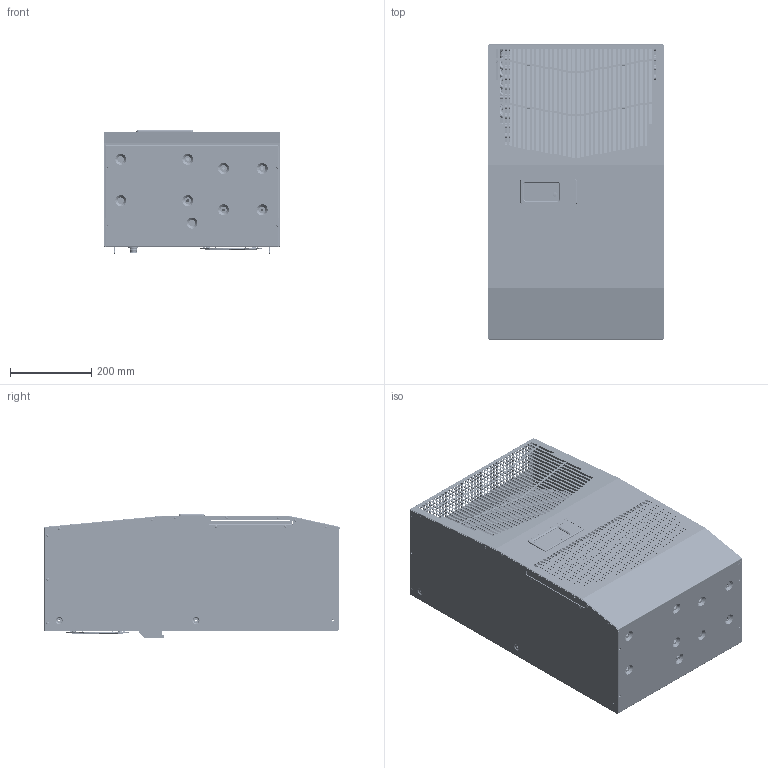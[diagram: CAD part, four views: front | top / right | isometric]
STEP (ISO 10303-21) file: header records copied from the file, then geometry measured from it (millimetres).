
FILE_DESCRIPTION (( 'STEP AP203' ), '1' );
FILE_NAME ('g280416g050.STEP', '2013-04-17T20:10:12', ( 'User' ), ( 'Pentair Inc' ), 'SwSTEP 2.0', 'SolidWorks 2010', '' );
FILE_SCHEMA (( 'CONFIG_CONTROL_DESIGN' ));
Products named in the file (32): g280416g050; 89078942; 89101704; 10-1061-16; 10-1002-455; 38-2023-12; 28-6218-00; 89101703_as installed; 89078943; 11-7810-88_as installed; 89101701_as installed; 89101702_as installed; 89075090; 89100366; 89100367; 89100368; 89100369; 89098953; 89100370; 10-1097-03_AS USED; 10-1015-97_Internal Tooth LW Type A-0.19; 89096883; 10-1131-08; 10-1002-479; 89075089; 10-1002-478; 10-1014-34; 87925524_as installed; 89078951; 89101531; 12-1012-00; 89074296
Assembly tree (76 placements, depth 3):
  g280416g050
    89078943
    10-1014-34  x17
    28-6218-00
    10-1015-97_Internal Tooth LW Type A-0.19  x3
    12-1012-00
    89078942
    89101703_as installed  x2
    89075089
    89074296
    89075090
    89101704  x2
    11-7810-88_as installed
    10-1061-16
    89101702_as installed  x2
    89101701_as installed  x2
    10-1002-478
    89100366
      10-1097-03_AS USED  x24
      89100367
      89100370
      89098953
      89100369
      89100368
    10-1002-479
    87925524_as installed
    10-1002-455
    10-1131-08
    89078951
    38-2023-12
    89096883
    89101531
Bounding box: 434.39 x 726.23 x 303.71 mm (x, y, z)
Volume: 4540696.8 mm3; surface area: 5372496.6 mm2
Topology: 79 solids, 97 shells, 10131 faces, 27376 edges, 17466 vertices
Faces by surface type: plane 6818, cylinder 1775, bspline 641, torus 540, cone 238, sphere 119
Entity records: 243700 total; most frequent: CARTESIAN_POINT 62744, ORIENTED_EDGE 37436, DIRECTION 34497, EDGE_CURVE 18758, VECTOR 14297, LINE 14297, VERTEX_POINT 12203, AXIS2_PLACEMENT_3D 10100
